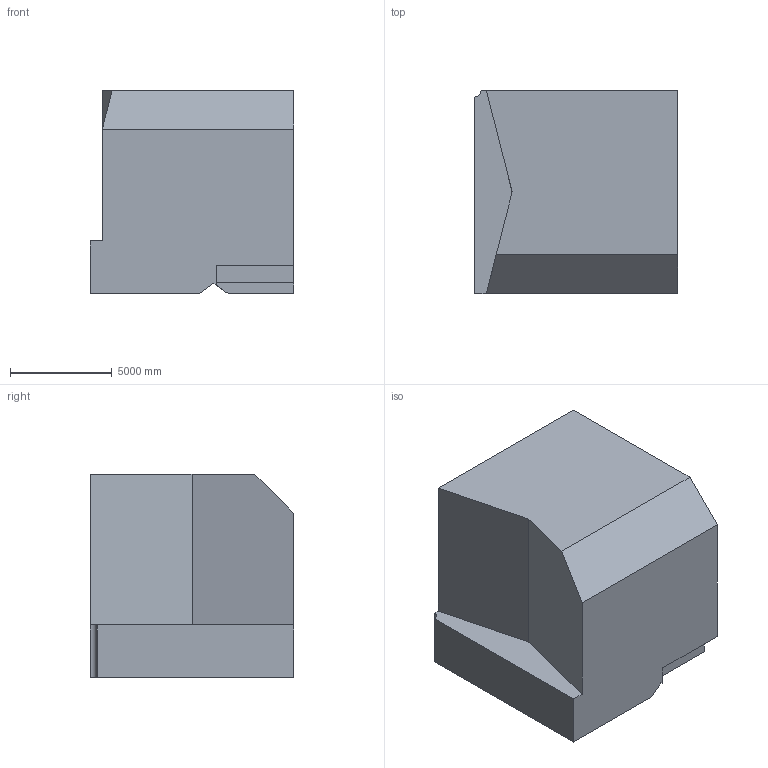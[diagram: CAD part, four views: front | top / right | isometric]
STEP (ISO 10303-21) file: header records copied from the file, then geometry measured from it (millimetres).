
FILE_DESCRIPTION (( 'STEP AP203' ), '1' );
FILE_NAME ('71.STEP', '2022-09-02T15:22:59', ( 'user' ), ( '' ), 'SwSTEP 2.0', 'SolidWorks 2021', '' );
FILE_SCHEMA (( 'CONFIG_CONTROL_DESIGN' ));
Length unit declared in the file: centimetre
Products named in the file (1): 71
Bounding box: 10000 x 10000 x 10000 mm (x, y, z)
Volume: 840936719240.9 mm3; surface area: 664898883.7 mm2
Topology: 1 solids, 1 shells, 30 faces, 80 edges, 53 vertices
Faces by surface type: plane 29, cylinder 1
Entity records: 995 total; most frequent: CARTESIAN_POINT 164, ORIENTED_EDGE 160, DIRECTION 144, EDGE_CURVE 80, VECTOR 78, LINE 78, VERTEX_POINT 53, AXIS2_PLACEMENT_3D 33
